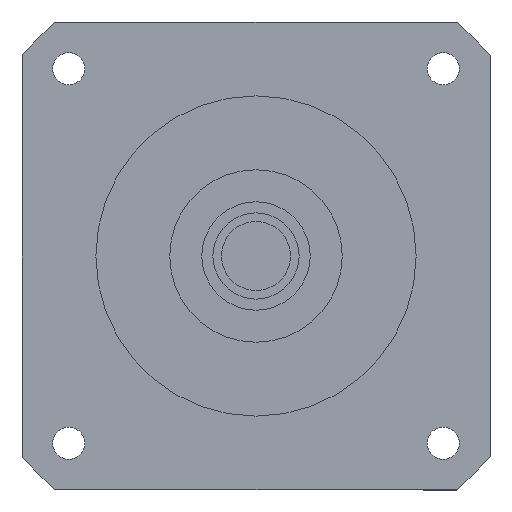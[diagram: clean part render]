
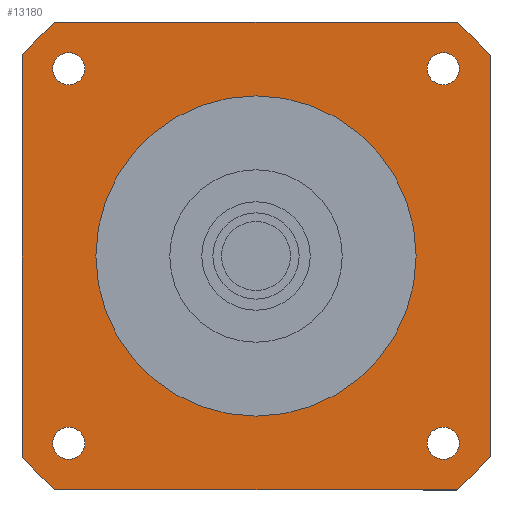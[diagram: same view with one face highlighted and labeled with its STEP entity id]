
A CAD part, left-side view. The second image highlights one B-rep face of the part: STEP entity #13180.
In plain terms, the highlighted planar face has unit normal (-1, 0, 0) as drawn and (0, 0, -1) by its records, which use the part's own axes.
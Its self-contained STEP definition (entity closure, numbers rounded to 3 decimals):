
#10190=CARTESIAN_POINT('',(81.24,95.,-84.7));
#10200=VERTEX_POINT('',#10190);
#10250=CARTESIAN_POINT('',(0.,0.,
-84.7));
#10260=DIRECTION('',(0.,0.,-1.));
#10270=DIRECTION('',(1.,0.,0.));
#10280=AXIS2_PLACEMENT_3D('',#10250,#10260,#10270);
#10290=CIRCLE('',#10280,125.);
#10300=CARTESIAN_POINT('',(95.,81.24,-84.7));
#10310=VERTEX_POINT('',#10300);
#10320=EDGE_CURVE('',#10200,#10310,#10290,.T.);
#11590=CARTESIAN_POINT('',(65.,0.,-84.7));
#11600=VERTEX_POINT('',#11590);
#11630=CARTESIAN_POINT('',(0.,0.,
-84.7));
#11640=DIRECTION('',(0.,0.,1.));
#11650=DIRECTION('',(0.,1.,0.));
#11660=AXIS2_PLACEMENT_3D('',#11630,#11640,#11650);
#11670=CIRCLE('',#11660,65.);
#11680=CARTESIAN_POINT('',(0.,65.,-84.7));
#11690=VERTEX_POINT('',#11680);
#11700=EDGE_CURVE('',#11600,#11690,#11670,.T.);
#11720=CARTESIAN_POINT('',(-65.,0.,-84.7));
#11730=VERTEX_POINT('',#11720);
#11740=EDGE_CURVE('',#11690,#11730,#11670,.T.);
#11870=CARTESIAN_POINT('',(95.,95.,-84.7));
#11880=DIRECTION('',(0.,0.,-1.));
#11890=DIRECTION('',(1.,0.,0.));
#11900=AXIS2_PLACEMENT_3D('',#11870,#11880,#11890);
#11910=PLANE('',#11900);
#11920=CARTESIAN_POINT('',(-76.014,76.014,-84.7));
#11930=DIRECTION('',(0.,0.,-1.));
#11940=DIRECTION('',(-1.,0.,0.));
#11950=AXIS2_PLACEMENT_3D('',#11920,#11930,#11940);
#11960=CIRCLE('',#11950,6.5);
#11970=CARTESIAN_POINT('',(-82.514,76.014,-84.7));
#11980=VERTEX_POINT('',#11970);
#11990=CARTESIAN_POINT('',(-69.514,76.014,-84.7));
#12000=VERTEX_POINT('',#11990);
#12010=EDGE_CURVE('',#11980,#12000,#11960,.T.);
#12020=ORIENTED_EDGE('',*,*,#12010,.F.);
#12030=EDGE_CURVE('',#12000,#11980,#11960,.T.);
#12040=ORIENTED_EDGE('',*,*,#12030,.F.);
#12050=EDGE_LOOP('',(#12040,#12020));
#12060=FACE_BOUND('',#12050,.T.);
#12070=CARTESIAN_POINT('',(76.014,76.014,-84.7));
#12080=DIRECTION('',(0.,0.,-1.));
#12090=DIRECTION('',(0.,1.,0.));
#12100=AXIS2_PLACEMENT_3D('',#12070,#12080,#12090);
#12110=CIRCLE('',#12100,6.5);
#12120=CARTESIAN_POINT('',(76.014,82.514,-84.7));
#12130=VERTEX_POINT('',#12120);
#12140=CARTESIAN_POINT('',(76.014,69.514,-84.7));
#12150=VERTEX_POINT('',#12140);
#12160=EDGE_CURVE('',#12130,#12150,#12110,.T.);
#12170=ORIENTED_EDGE('',*,*,#12160,.F.);
#12180=EDGE_CURVE('',#12150,#12130,#12110,.T.);
#12190=ORIENTED_EDGE('',*,*,#12180,.F.);
#12200=EDGE_LOOP('',(#12190,#12170));
#12210=FACE_BOUND('',#12200,.T.);
#12220=EDGE_CURVE('',#11730,#11600,#11670,.T.);
#12230=ORIENTED_EDGE('',*,*,#12220,.T.);
#12240=ORIENTED_EDGE('',*,*,#11740,.T.);
#12250=ORIENTED_EDGE('',*,*,#11700,.T.);
#12260=EDGE_LOOP('',(#12250,#12240,#12230));
#12270=FACE_BOUND('',#12260,.T.);
#12280=CARTESIAN_POINT('',(76.014,-76.014,-84.7));
#12290=DIRECTION('',(0.,0.,-1.));
#12300=DIRECTION('',(1.,0.,0.));
#12310=AXIS2_PLACEMENT_3D('',#12280,#12290,#12300);
#12320=CIRCLE('',#12310,6.5);
#12330=CARTESIAN_POINT('',(82.514,-76.014,-84.7));
#12340=VERTEX_POINT('',#12330);
#12350=CARTESIAN_POINT('',(69.514,-76.014,-84.7));
#12360=VERTEX_POINT('',#12350);
#12370=EDGE_CURVE('',#12340,#12360,#12320,.T.);
#12380=ORIENTED_EDGE('',*,*,#12370,.F.);
#12390=EDGE_CURVE('',#12360,#12340,#12320,.T.);
#12400=ORIENTED_EDGE('',*,*,#12390,.F.);
#12410=EDGE_LOOP('',(#12400,#12380));
#12420=FACE_BOUND('',#12410,.T.);
#12430=CARTESIAN_POINT('',(-76.014,-76.014,-84.7));
#12440=DIRECTION('',(0.,0.,-1.));
#12450=DIRECTION('',(0.,-1.,0.));
#12460=AXIS2_PLACEMENT_3D('',#12430,#12440,#12450);
#12470=CIRCLE('',#12460,6.5);
#12480=CARTESIAN_POINT('',(-76.014,-82.514,-84.7));
#12490=VERTEX_POINT('',#12480);
#12500=CARTESIAN_POINT('',(-76.014,-69.514,-84.7));
#12510=VERTEX_POINT('',#12500);
#12520=EDGE_CURVE('',#12490,#12510,#12470,.T.);
#12530=ORIENTED_EDGE('',*,*,#12520,.F.);
#12540=EDGE_CURVE('',#12510,#12490,#12470,.T.);
#12550=ORIENTED_EDGE('',*,*,#12540,.F.);
#12560=EDGE_LOOP('',(#12550,#12530));
#12570=FACE_BOUND('',#12560,.T.);
#12580=CARTESIAN_POINT('',(-95.,95.,-84.7));
#12590=DIRECTION('',(1.,0.,0.));
#12600=VECTOR('',#12590,1000.);
#12610=LINE('',#12580,#12600);
#12620=CARTESIAN_POINT('',(-81.24,95.,-84.7));
#12630=VERTEX_POINT('',#12620);
#12640=EDGE_CURVE('',#12630,#10200,#12610,.T.);
#12650=ORIENTED_EDGE('',*,*,#12640,.T.);
#12660=CARTESIAN_POINT('',(0.,0.,
-84.7));
#12670=DIRECTION('',(0.,0.,-1.));
#12680=DIRECTION('',(1.,0.,0.));
#12690=AXIS2_PLACEMENT_3D('',#12660,#12670,#12680);
#12700=CIRCLE('',#12690,125.);
#12710=CARTESIAN_POINT('',(-95.,81.24,-84.7));
#12720=VERTEX_POINT('',#12710);
#12730=EDGE_CURVE('',#12720,#12630,#12700,.T.);
#12740=ORIENTED_EDGE('',*,*,#12730,.T.);
#12750=CARTESIAN_POINT('',(-95.,-95.,-84.7));
#12760=DIRECTION('',(0.,1.,0.));
#12770=VECTOR('',#12760,1000.);
#12780=LINE('',#12750,#12770);
#12790=CARTESIAN_POINT('',(-95.,-81.24,-84.7));
#12800=VERTEX_POINT('',#12790);
#12810=EDGE_CURVE('',#12800,#12720,#12780,.T.);
#12820=ORIENTED_EDGE('',*,*,#12810,.T.);
#12830=CARTESIAN_POINT('',(0.,0.,
-84.7));
#12840=DIRECTION('',(0.,0.,-1.));
#12850=DIRECTION('',(1.,0.,0.));
#12860=AXIS2_PLACEMENT_3D('',#12830,#12840,#12850);
#12870=CIRCLE('',#12860,125.);
#12880=CARTESIAN_POINT('',(-81.24,-95.,-84.7));
#12890=VERTEX_POINT('',#12880);
#12900=EDGE_CURVE('',#12890,#12800,#12870,.T.);
#12910=ORIENTED_EDGE('',*,*,#12900,.T.);
#12920=CARTESIAN_POINT('',(95.,-95.,-84.7));
#12930=DIRECTION('',(-1.,0.,0.));
#12940=VECTOR('',#12930,1000.);
#12950=LINE('',#12920,#12940);
#12960=CARTESIAN_POINT('',(81.24,-95.,-84.7));
#12970=VERTEX_POINT('',#12960);
#12980=EDGE_CURVE('',#12970,#12890,#12950,.T.);
#12990=ORIENTED_EDGE('',*,*,#12980,.T.);
#13000=CARTESIAN_POINT('',(0.,0.,
-84.7));
#13010=DIRECTION('',(0.,0.,-1.));
#13020=DIRECTION('',(1.,0.,0.));
#13030=AXIS2_PLACEMENT_3D('',#13000,#13010,#13020);
#13040=CIRCLE('',#13030,125.);
#13050=CARTESIAN_POINT('',(95.,-81.24,-84.7));
#13060=VERTEX_POINT('',#13050);
#13070=EDGE_CURVE('',#13060,#12970,#13040,.T.);
#13080=ORIENTED_EDGE('',*,*,#13070,.T.);
#13090=CARTESIAN_POINT('',(95.,95.,-84.7));
#13100=DIRECTION('',(0.,-1.,0.));
#13110=VECTOR('',#13100,1000.);
#13120=LINE('',#13090,#13110);
#13130=EDGE_CURVE('',#10310,#13060,#13120,.T.);
#13140=ORIENTED_EDGE('',*,*,#13130,.T.);
#13150=ORIENTED_EDGE('',*,*,#10320,.T.);
#13160=EDGE_LOOP('',(#13150,#13140,#13080,#12990,#12910,#12820,#12740,
#12650));
#13170=FACE_OUTER_BOUND('',#13160,.T.);
#13180=ADVANCED_FACE('',(#12060,#12210,#12270,#12420,#12570,#13170),
#11910,.T.);
